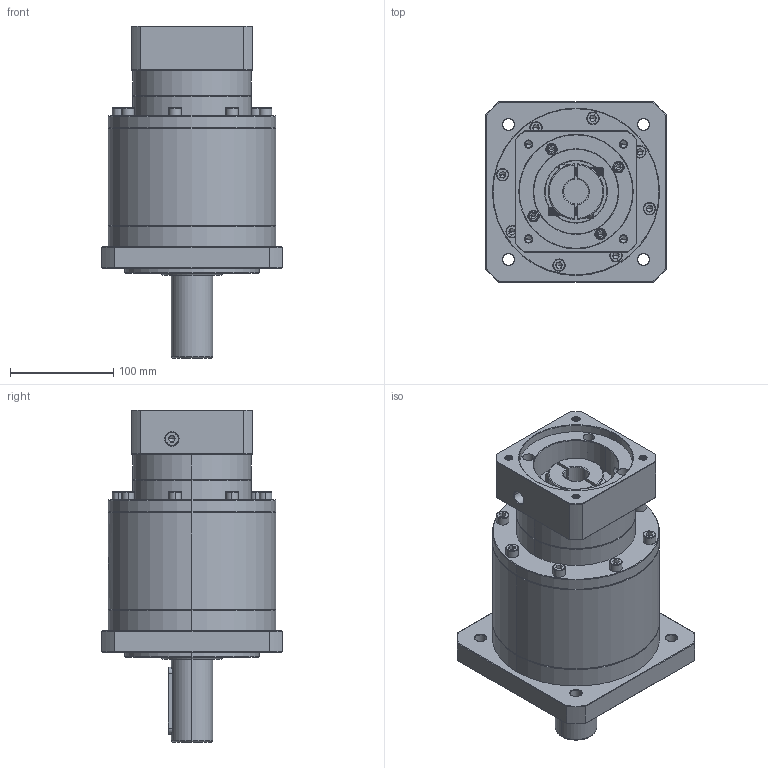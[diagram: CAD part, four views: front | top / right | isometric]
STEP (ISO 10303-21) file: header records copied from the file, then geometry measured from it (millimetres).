
FILE_DESCRIPTION (( 'STEP AP214' ), '1' );
FILE_NAME ('ZF160A-D40-L3-P2-24-110-130-M8.step', '2023-09-03T07:56:17', ( '' ), ( '' ), 'SwSTEP 2.0', 'SolidWorks 2016', '' );
FILE_SCHEMA (( 'AUTOMOTIVE_DESIGN' ));
Length unit declared in the file: millimetre
Products named in the file (1): ZF160A-D40-L3-P2-24-110-130-M8
Bounding box: 175 x 175 x 321.7 mm (x, y, z)
Volume: 4190683 mm3; surface area: 281217.3 mm2
Topology: 6 solids, 6 shells, 2426 faces, 6378 edges, 4079 vertices
Faces by surface type: plane 1119, cylinder 487, bspline 405, cone 357, torus 58
Entity records: 131559 total; most frequent: CARTESIAN_POINT 50243, ORIENTED_EDGE 12648, DIRECTION 9618, EDGE_CURVE 6324, VERTEX_POINT 4079, VECTOR 3376, LINE 3376, AXIS2_PLACEMENT_3D 3121
